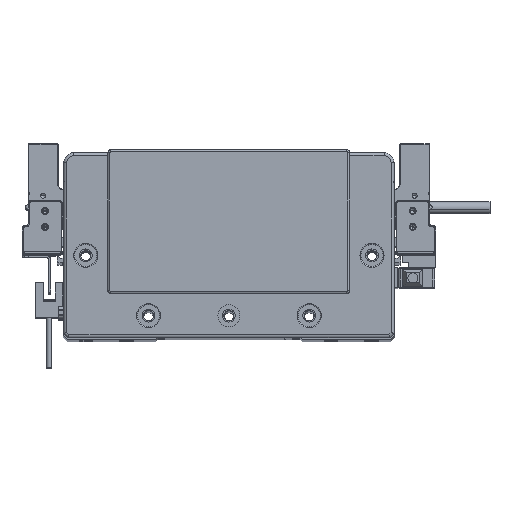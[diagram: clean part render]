
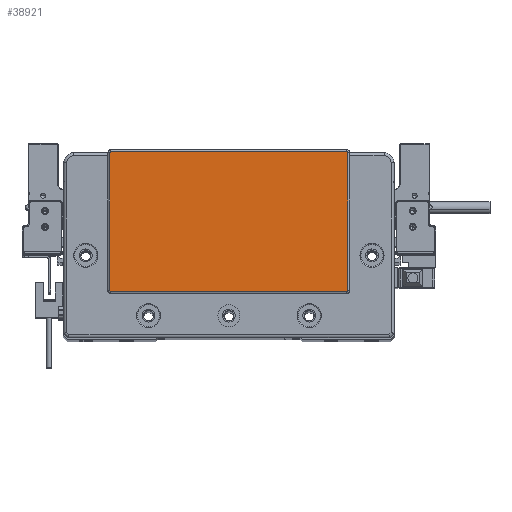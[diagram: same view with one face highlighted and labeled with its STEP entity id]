
A CAD part, top view. The second image highlights one B-rep face of the part: STEP entity #38921.
In plain terms, the highlighted planar face has unit normal (0, 0, 1) as drawn and (0, 0, -1) by its records, which use the part's own axes.
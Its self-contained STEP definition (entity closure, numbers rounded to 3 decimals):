
#5814 = DIRECTION ( 'NONE',  ( -1., 0., 0. ) ) ;
#7300 = AXIS2_PLACEMENT_3D ( 'NONE', #29297, #44466, #8423 ) ;
#7707 = DIRECTION ( 'NONE',  ( 1., 0., 0. ) ) ;
#8423 = DIRECTION ( 'NONE',  ( -1., 0., 0. ) ) ;
#8525 = AXIS2_PLACEMENT_3D ( 'NONE', #57067, #12450, #5814 ) ;
#9006 = DIRECTION ( 'NONE',  ( 0., -1., 0. ) ) ;
#11224 = EDGE_CURVE ( 'NONE', #31210, #48022, #84414, .T. ) ;
#11686 = VECTOR ( 'NONE', #7707, 1000. ) ;
#12450 = DIRECTION ( 'NONE',  ( 0., 0., -1. ) ) ;
#12735 = VERTEX_POINT ( 'NONE', #58855 ) ;
#15753 = CARTESIAN_POINT ( 'NONE',  ( 58.75, 45.8, -2. ) ) ;
#17553 = DIRECTION ( 'NONE',  ( -1., 0., 0. ) ) ;
#17622 = CIRCLE ( 'NONE', #8525, 0.5 ) ;
#18177 = AXIS2_PLACEMENT_3D ( 'NONE', #18988, #84458, #55967 ) ;
#18988 = CARTESIAN_POINT ( 'NONE',  ( -58.75, -23.3, -2. ) ) ;
#21150 = CIRCLE ( 'NONE', #18177, 0.5 ) ;
#22545 = VECTOR ( 'NONE', #63040, 1000. ) ;
#23373 = ORIENTED_EDGE ( 'NONE', *, *, #28476, .T. ) ;
#25505 = CARTESIAN_POINT ( 'NONE',  ( -59.25, -23.3, -2. ) ) ;
#25567 = VERTEX_POINT ( 'NONE', #88385 ) ;
#25915 = EDGE_LOOP ( 'NONE', ( #63562, #85894, #58603, #88504, #73563, #44976, #78032, #23373 ) ) ;
#26967 = CARTESIAN_POINT ( 'NONE',  ( -59.25, 45.3, -2. ) ) ;
#28082 = CARTESIAN_POINT ( 'NONE',  ( 58.75, -23.8, -2. ) ) ;
#28476 = EDGE_CURVE ( 'NONE', #49381, #58537, #38295, .T. ) ;
#28650 = FACE_OUTER_BOUND ( 'NONE', #25915, .T. ) ;
#29297 = CARTESIAN_POINT ( 'NONE',  ( -58.75, 45.3, -2. ) ) ;
#29739 = EDGE_CURVE ( 'NONE', #12735, #31210, #21150, .T. ) ;
#31210 = VERTEX_POINT ( 'NONE', #25505 ) ;
#36466 = VECTOR ( 'NONE', #9006, 1000. ) ;
#36679 = DIRECTION ( 'NONE',  ( -1., 0., 0. ) ) ;
#38295 = CIRCLE ( 'NONE', #59559, 0.5 ) ;
#38921 = ADVANCED_FACE ( 'NONE', ( #28650 ), #43343, .T. ) ;
#39727 = LINE ( 'NONE', #68690, #82562 ) ;
#43343 = PLANE ( 'NONE',  #80000 ) ;
#44269 = CARTESIAN_POINT ( 'NONE',  ( 0., 0., -2. ) ) ;
#44466 = DIRECTION ( 'NONE',  ( 0., 0., -1. ) ) ;
#44976 = ORIENTED_EDGE ( 'NONE', *, *, #66721, .T. ) ;
#48022 = VERTEX_POINT ( 'NONE', #61095 ) ;
#48063 = CARTESIAN_POINT ( 'NONE',  ( 59.25, -23.3, -2. ) ) ;
#49170 = VERTEX_POINT ( 'NONE', #48063 ) ;
#49381 = VERTEX_POINT ( 'NONE', #15753 ) ;
#54460 = DIRECTION ( 'NONE',  ( -1., 0., 0. ) ) ;
#55967 = DIRECTION ( 'NONE',  ( -1., 0., 0. ) ) ;
#57067 = CARTESIAN_POINT ( 'NONE',  ( 58.75, -23.3, -2. ) ) ;
#58537 = VERTEX_POINT ( 'NONE', #61729 ) ;
#58603 = ORIENTED_EDGE ( 'NONE', *, *, #89399, .T. ) ;
#58855 = CARTESIAN_POINT ( 'NONE',  ( -58.75, -23.8, -2. ) ) ;
#59559 = AXIS2_PLACEMENT_3D ( 'NONE', #75892, #82554, #17553 ) ;
#61095 = CARTESIAN_POINT ( 'NONE',  ( -59.25, 45.3, -2. ) ) ;
#61729 = CARTESIAN_POINT ( 'NONE',  ( 59.25, 45.3, -2. ) ) ;
#63040 = DIRECTION ( 'NONE',  ( 0., 1., 0. ) ) ;
#63475 = EDGE_CURVE ( 'NONE', #49170, #90559, #17622, .T. ) ;
#63562 = ORIENTED_EDGE ( 'NONE', *, *, #69485, .T. ) ;
#65857 = EDGE_CURVE ( 'NONE', #25567, #49381, #72721, .T. ) ;
#66422 = CARTESIAN_POINT ( 'NONE',  ( 59.25, -23.3, -2. ) ) ;
#66721 = EDGE_CURVE ( 'NONE', #48022, #25567, #67923, .T. ) ;
#67923 = CIRCLE ( 'NONE', #7300, 0.5 ) ;
#68690 = CARTESIAN_POINT ( 'NONE',  ( -58.75, -23.8, -2. ) ) ;
#69485 = EDGE_CURVE ( 'NONE', #58537, #49170, #73557, .T. ) ;
#72312 = DIRECTION ( 'NONE',  ( 0., 0., -1. ) ) ;
#72721 = LINE ( 'NONE', #73655, #11686 ) ;
#73557 = LINE ( 'NONE', #66422, #36466 ) ;
#73563 = ORIENTED_EDGE ( 'NONE', *, *, #11224, .T. ) ;
#73655 = CARTESIAN_POINT ( 'NONE',  ( 58.75, 45.8, -2. ) ) ;
#75892 = CARTESIAN_POINT ( 'NONE',  ( 58.75, 45.3, -2. ) ) ;
#78032 = ORIENTED_EDGE ( 'NONE', *, *, #65857, .T. ) ;
#80000 = AXIS2_PLACEMENT_3D ( 'NONE', #44269, #72312, #36679 ) ;
#82554 = DIRECTION ( 'NONE',  ( 0., 0., -1. ) ) ;
#82562 = VECTOR ( 'NONE', #54460, 1000. ) ;
#84414 = LINE ( 'NONE', #26967, #22545 ) ;
#84458 = DIRECTION ( 'NONE',  ( 0., 0., -1. ) ) ;
#85894 = ORIENTED_EDGE ( 'NONE', *, *, #63475, .T. ) ;
#88385 = CARTESIAN_POINT ( 'NONE',  ( -58.75, 45.8, -2. ) ) ;
#88504 = ORIENTED_EDGE ( 'NONE', *, *, #29739, .T. ) ;
#89399 = EDGE_CURVE ( 'NONE', #90559, #12735, #39727, .T. ) ;
#90559 = VERTEX_POINT ( 'NONE', #28082 ) ;
